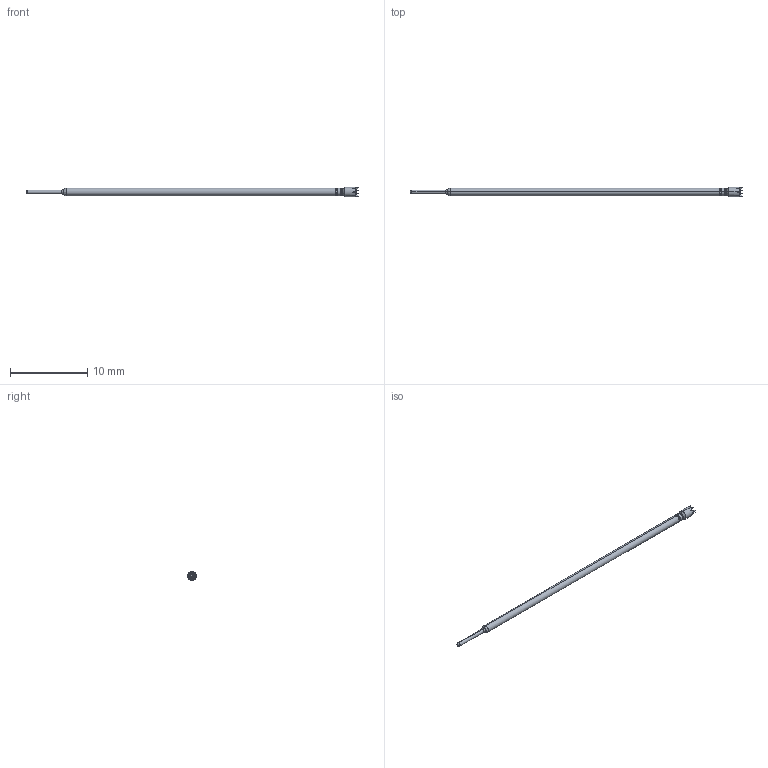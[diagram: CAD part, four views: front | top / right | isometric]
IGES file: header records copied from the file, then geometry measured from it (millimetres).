
Start section: SolidWorks IGES file using analytic representation for surfaces
Global section: file name: C:\Documents and Settings\mrumschlag\Desktop\changes\new\test\Z FULL.IGS; native system: SolidWorks 2011; preprocessor: SolidWorks 2011; author: mrumschlag; date: 110630.142314; units: inch
Bounding box: 42.93 x 1.19 x 1.19 mm (x, y, z)
Surface area: 127.5 mm2 (no closed solid volume)
Topology: 0 solids, 0 shells, 41 faces, 210 edges, 208 vertices
Faces by surface type: bspline 25, revolution 16
